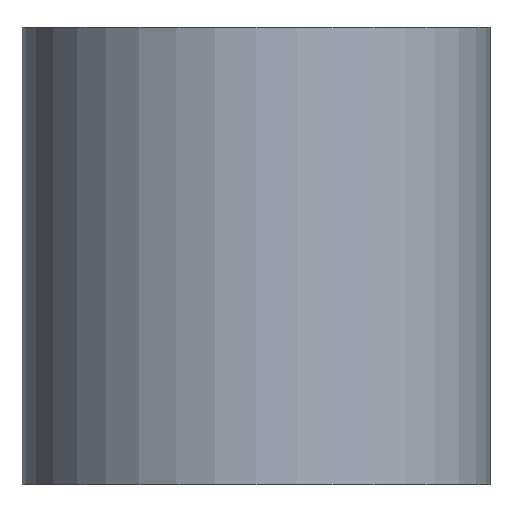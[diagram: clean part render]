
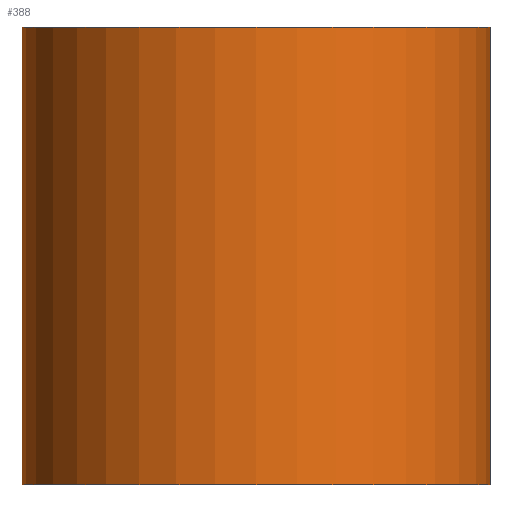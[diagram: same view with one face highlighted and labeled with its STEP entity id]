
A CAD part, front view. The second image highlights one B-rep face of the part: STEP entity #388.
In plain terms, the highlighted cylindrical face has radius 46 mm (diameter 92 mm), a partial arc.
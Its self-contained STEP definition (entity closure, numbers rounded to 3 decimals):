
#3=CARTESIAN_POINT('',(46.0,0.0,60.0));
#4=CARTESIAN_POINT('',(-46.0,0.0,60.0));
#5=CARTESIAN_POINT('',(46.0,0.0,150.0));
#6=CARTESIAN_POINT('',(-46.0,0.0,150.0));
#35=CARTESIAN_POINT('',(0.0,0.0,60.0));
#36=DIRECTION('',(0.0,0.0,1.0));
#37=DIRECTION('',(1.0,0.0,0.0));
#38=AXIS2_PLACEMENT_3D('',#35,#36,#37);
#39=CIRCLE('',#38,46.0);
#40=TRIMMED_CURVE('',#39,(#4),(#3),.T.,.CARTESIAN.);
#47=CARTESIAN_POINT('',(0.0,0.0,150.0));
#48=DIRECTION('',(0.0,0.0,1.0));
#49=DIRECTION('',(1.0,0.0,0.0));
#50=AXIS2_PLACEMENT_3D('',#47,#48,#49);
#51=CIRCLE('',#50,46.0);
#52=TRIMMED_CURVE('',#51,(#6),(#5),.T.,.CARTESIAN.);
#119=DIRECTION('',(0.0,0.0,1.0));
#120=VECTOR('',#119,1.0);
#121=LINE('',#3,#120);
#122=DIRECTION('',(0.0,0.0,1.0));
#123=VECTOR('',#122,1.0);
#124=LINE('',#4,#123);
#176=CARTESIAN_POINT('',(0.0,0.0,0.0));
#177=DIRECTION('',(0.0,0.0,1.0));
#178=DIRECTION('',(0.0,-1.0,0.0));
#179=AXIS2_PLACEMENT_3D('',#176,#177,#178);
#180=CYLINDRICAL_SURFACE('',#179,46.0);
#243=VERTEX_POINT('',#3);
#244=VERTEX_POINT('',#4);
#245=VERTEX_POINT('',#5);
#246=VERTEX_POINT('',#6);
#260=EDGE_CURVE('',#244,#243,#40,.T.);
#262=EDGE_CURVE('',#246,#245,#52,.T.);
#275=EDGE_CURVE('',#243,#245,#121,.T.);
#276=EDGE_CURVE('',#244,#246,#124,.T.);
#301=ORIENTED_EDGE('',*,*,#260,.T.);
#302=ORIENTED_EDGE('',*,*,#275,.T.);
#303=ORIENTED_EDGE('',*,*,#262,.F.);
#304=ORIENTED_EDGE('',*,*,#276,.F.);
#356=EDGE_LOOP('',(#301,#302,#303,#304));
#372=FACE_OUTER_BOUND('',#356,.T.);
#388=ADVANCED_FACE('',(#372),#180,.T.);
